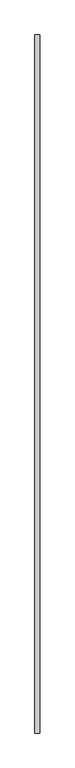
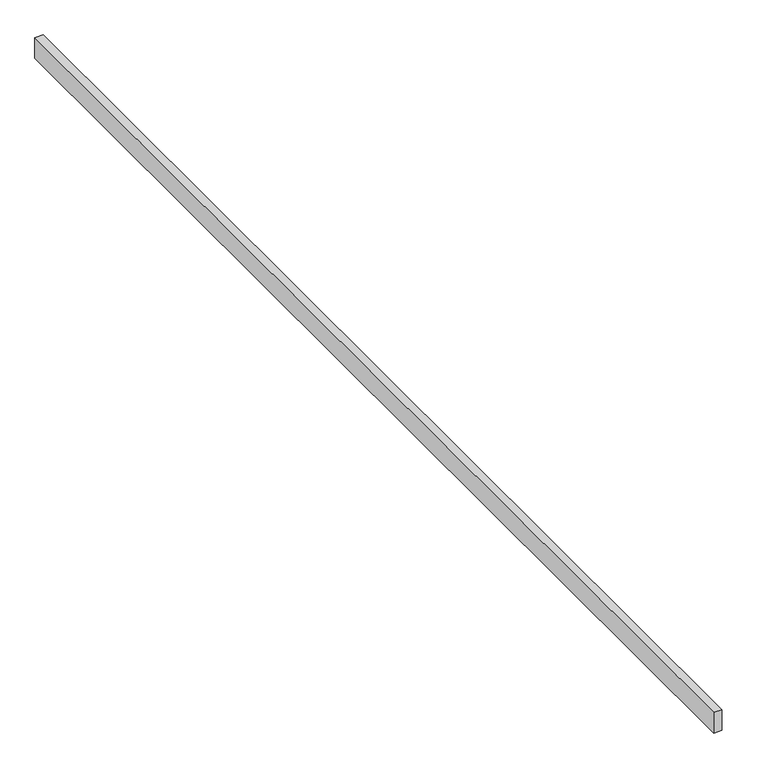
"""IFC4 building model written with IfcOpenShell, lengths in millimetres: proxy geometry, Modelos genéricos 45 : Modelos genéricos 1."""

from ifc_helpers import new_model, si_unit, frame, origin, place, context, project, spatial, polyline, outline, extrude, source, transform, mapped, element, save


def generic_models_a1f4184e(model_context):
    return source(origin(), model_context, "Body", "SweptSolid", [
        extrude(outline(polyline([(-5376.5527533, 6228.6238165), (-5316.5527533, 6228.6238165), (-5316.5527533, -2331.3761835), (-5376.5527533, -2331.3761835), (-5376.5527533, 6228.6238165)])), frame((0.0, 0.0, 3000.0), z_axis=(0.0, 0.0, 1.0), x_axis=(1.0, 0.0, 0.0)), (0.0, 0.0, 1.0), 160.0),
    ])


if __name__ == "__main__":
    model = new_model("IFC4")
    model_context = context("Model", 3, world=origin())
    ifc_project = project(units=[si_unit("LENGTHUNIT", "METRE", prefix="MILLI")], contexts=[model_context])
    site = spatial("IfcSite", under=ifc_project)
    building = spatial("IfcBuilding", under=site)
    placement = place(None, origin())
    generic_models_shape = generic_models_a1f4184e(model_context)
    element("IfcBuildingElementProxy", 1, Name="Modelos genéricos 45 : Modelos genéricos 1", ObjectType="Modelos genéricos 45 : Modelos genéricos 1", at=placement, inside=building, context=model_context, shape_type="MappedRepresentation", body=[
        mapped(generic_models_shape, transform((0.0, 0.0, 0.0), x_axis=(1.0, 0.0, 0.0), y_axis=(0.0, 1.0, 0.0), z_axis=(0.0, 0.0, 1.0))),
    ])
    save(model, "model.ifc")
